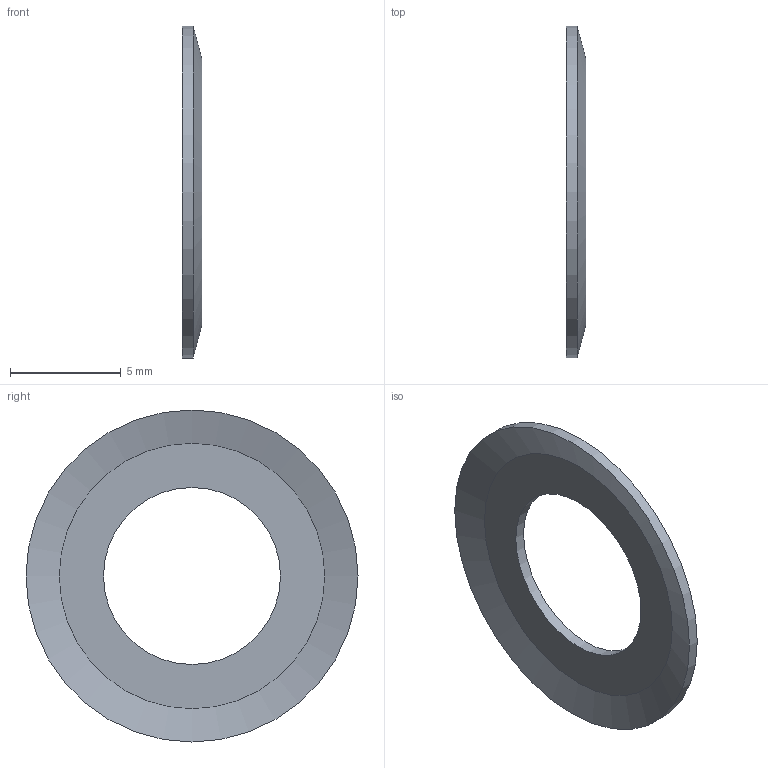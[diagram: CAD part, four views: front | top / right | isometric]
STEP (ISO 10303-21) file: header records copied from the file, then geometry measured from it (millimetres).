
FILE_DESCRIPTION(/* description */ ('FLANGIA TIPO 502'),/* implementation_level */ '2;1');
FILE_NAME(/* name */ 'w:\documenti\Disegni dwg\Catalogo\Flange\Nuova cartella\49200502.stp',/* time_stamp */ '2023-05-09T11:49:10+02:00',/* author */ ('carlo.bersi'),/* organization */ (''),/* preprocessor_version */ 'ST-DEVELOPER v19',/* originating_system */ 'Autodesk Inventor 2023',/* authorisation */ '');
FILE_SCHEMA (('CONFIG_CONTROL_DESIGN'));
Length unit declared in the file: millimetre
Products named in the file (1): 49200502
Bounding box: 0.9 x 15 x 15 mm (x, y, z)
Volume: 63.2 mm3; surface area: 293.5 mm2
Topology: 1 solids, 1 shells, 6 faces, 10 edges, 6 vertices
Faces by surface type: cone 2, cylinder 2, plane 2
Full cylindrical faces by diameter (mm): 8 x1, 15 x1
Entity records: 191 total; most frequent: DIRECTION 30, CARTESIAN_POINT 23, ORIENTED_EDGE 20, AXIS2_PLACEMENT_3D 13, EDGE_CURVE 10, EDGE_LOOP 8, FACE_OUTER_BOUND 6, CIRCLE 6
